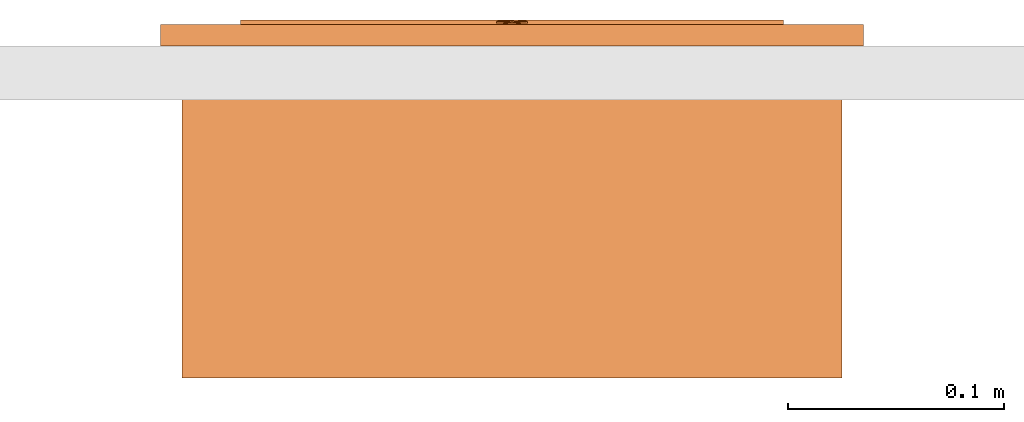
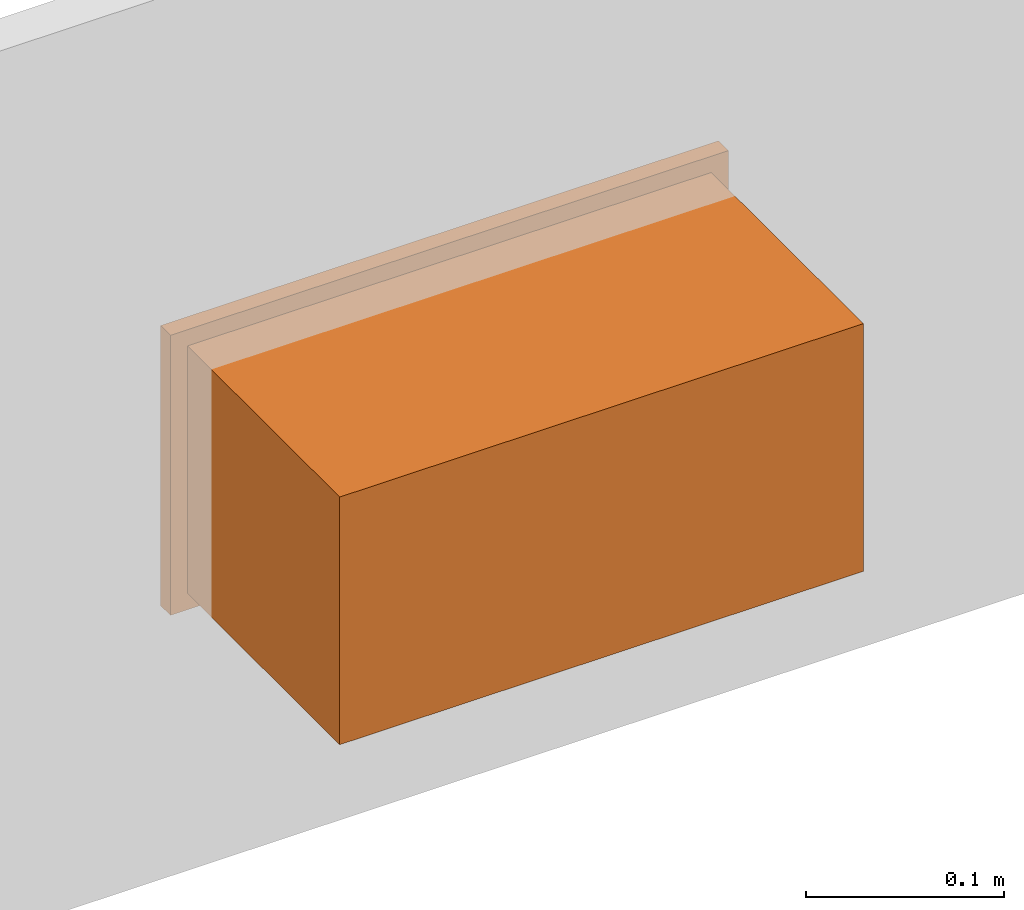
# One storey, part 2 of 2: 1 proxy.
"""IFC2X3 building model written with IfcOpenShell, lengths in millimetres."""

from ifc_helpers import new_model, entity, si_unit, converted_unit, derived_unit, direction, frame, origin, place, context, subcontext, project, spatial, face_set, surface_model, source, transform, mapped, material, material_list, element, save


model = new_model("IFC2X3")

# Units and contexts
model_context = context("Model", 3, precision=1e-05, world=origin(), true_north=direction((2.0, 6.12303176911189e-17, 1.0)))
context_of_model = context(None, 3, precision=1e-05, world=origin(), true_north=direction((2.0, 6.12303176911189e-17, 1.0)))
body_context = subcontext(model_context, "Body", "Model", "MODEL_VIEW")
ifc_project = project(units=[si_unit("LENGTHUNIT", "METRE", prefix="MILLI"), si_unit("AREAUNIT", "SQUARE_METRE"), si_unit("VOLUMEUNIT", "CUBIC_METRE"), converted_unit("PLANEANGLEUNIT", "DEGREE", entity("IfcRatioMeasure", 0.0174532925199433), si_unit("PLANEANGLEUNIT", "RADIAN"), dimensions=[0, 0, 0, 0, 0, 0, 0]), si_unit("MASSUNIT", "GRAM", prefix="KILO"), si_unit("TIMEUNIT", "SECOND"), si_unit("THERMODYNAMICTEMPERATUREUNIT", "KELVIN"), derived_unit("THERMALTRANSMITTANCEUNIT", [(si_unit("MASSUNIT", "GRAM", prefix="KILO"), 1), (si_unit("THERMODYNAMICTEMPERATUREUNIT", "KELVIN"), -1), (si_unit("TIMEUNIT", "SECOND"), -3)]), derived_unit("VOLUMETRICFLOWRATEUNIT", [(si_unit("LENGTHUNIT", "METRE"), 3), (si_unit("TIMEUNIT", "SECOND"), -1)]), si_unit("POWERUNIT", "WATT")], contexts=[model_context, context_of_model])

# Site, building, storey
site_placement = place(None, origin())
site = spatial("IfcSite", under=ifc_project, at=site_placement, Name="Default", CompositionType="ELEMENT")
building_placement = place(site_placement, origin())
building = spatial("IfcBuilding", under=site, at=building_placement, CompositionType="ELEMENT")
storey_placement = place(building_placement, origin())
storey = spatial("IfcBuildingStorey", under=building, at=storey_placement, Name="Level 1", CompositionType="ELEMENT", Elevation=0.0)

# Proxy
ifc_material = material(Name="Stainless Steel")
ifc_material_list = material_list([ifc_material])
shared_shape = source(origin(), body_context, "Body", "SurfaceModel", [
    surface_model("IfcFaceBasedSurfaceModel", [(163.0, 3.59907379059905, 126.0), (156.071796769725, 3.59907379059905, 130.0), (156.071796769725, 3.59907379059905, 138.0), (163.0, 3.59907379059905, 142.0), (163.0, 3.599073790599, 138.472447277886), (162.2, 3.599073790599, 138.472447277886), (162.2, 3.599073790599, 129.527552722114), (163.0, 3.599073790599, 129.527552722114), (169.928203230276, 3.59907379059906, 138.0), (169.928203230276, 3.59907379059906, 130.0), (163.8, 3.599073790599, 129.527552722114), (163.8, 3.599073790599, 138.472447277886), (155.835222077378, 2.42198417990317, 134.000007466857), (163.000000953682, 2.91026287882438, 141.434401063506), (163.000000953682, 2.14229104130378, 140.803843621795), (156.913980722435, 1.80898221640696, 133.057041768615), (163.000000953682, 1.85089122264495, 128.15708649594), (163.000000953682, 1.59527228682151, 128.999985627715), (163.000000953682, 2.91026287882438, 126.565577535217), (163.000000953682, 2.14229104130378, 127.196171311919), (163.000000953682, 1.85089122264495, 139.842928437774), (157.999997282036, 1.59527228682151, 134.000007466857), (163.000000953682, 1.59527228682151, 138.999992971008), (170.164779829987, 2.42198417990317, 134.000007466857), (169.086012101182, 1.80898221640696, 134.942973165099), (167.999995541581, 1.59527228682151, 134.000007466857), (163.0, 1.59527223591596, 138.472447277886), (162.2, 1.59527223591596, 138.472447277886), (162.2, 1.59527223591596, 129.527552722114), (163.0, 1.59527223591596, 129.527552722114), (163.8, 1.59527223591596, 129.527552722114), (163.8, 1.59527223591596, 138.472447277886), (281.0, 1.59907379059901, 103.0), (283.07055236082, 1.59907379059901, 102.727406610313), (285.0, 1.59907379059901, 101.928203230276), (286.656854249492, 1.59907379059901, 100.656854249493), (287.928203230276, 1.59907379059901, 99.0), (288.727406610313, 1.59907379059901, 97.0705523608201), (289.0, 1.59907379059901, 95.0), (289.0, 1.59907379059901, 55.0), (288.727406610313, 1.59907379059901, 52.9294476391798), (287.928203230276, 1.59907379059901, 51.0), (286.656854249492, 1.59907379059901, 49.3431457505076), (285.0, 1.59907379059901, 48.0717967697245), (283.07055236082, 1.59907379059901, 47.2725933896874), (281.0, 1.59907379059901, 47.0), (45.0, 1.59907379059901, 47.0), (42.92944763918, 1.59907379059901, 47.2725933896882), (41.0, 1.59907379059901, 48.0717967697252), (39.3431457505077, 1.59907379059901, 49.3431457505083), (38.0717967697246, 1.59907379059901, 51.0), (37.2725933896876, 1.59907379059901, 52.9294476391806), (37.0, 1.59907379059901, 55.0), (37.0, 1.59907379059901, 95.0), (37.2725933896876, 1.59907379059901, 97.070552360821), (38.0717967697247, 1.59907379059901, 99.0), (39.3431457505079, 1.59907379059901, 100.656854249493), (41.0, 1.59907379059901, 101.928203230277), (42.9294476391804, 1.59907379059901, 102.727406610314), (45.0, 1.59907379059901, 103.0), (281.0, 1.59907379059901, 101.0), (45.0, 1.59907379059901, 101.0), (43.4470857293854, 1.59907379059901, 100.795554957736), (42.0, 1.59907379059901, 100.196152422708), (40.757359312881, 1.59907379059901, 99.2426406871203), (39.8038475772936, 1.59907379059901, 98.0), (39.2044450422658, 1.59907379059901, 96.5529142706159), (39.0, 1.59907379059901, 95.0), (39.0, 1.59907379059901, 55.0), (39.2044450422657, 1.59907379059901, 53.4470857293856), (39.8038475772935, 1.59907379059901, 52.0), (40.7573593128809, 1.59907379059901, 50.7573593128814), (42.0, 1.59907379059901, 49.8038475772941), (43.447085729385, 1.59907379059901, 49.2044450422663), (45.0, 1.59907379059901, 49.0), (281.0, 1.59907379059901, 49.0), (282.552914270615, 1.59907379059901, 49.2044450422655), (284.0, 1.59907379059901, 49.8038475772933), (285.242640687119, 1.59907379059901, 50.7573593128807), (286.196152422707, 1.59907379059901, 52.0), (286.795554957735, 1.59907379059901, 53.4470857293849), (287.0, 1.59907379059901, 55.0), (287.0, 1.59907379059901, 95.0), (286.795554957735, 1.59907379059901, 96.5529142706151), (286.196152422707, 1.59907379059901, 98.0), (285.242640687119, 1.59907379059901, 99.2426406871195), (284.0, 1.59907379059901, 100.196152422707), (282.552914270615, 1.59907379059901, 100.795554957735), (281.0, 3.59907379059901, 103.0), (283.07055236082, 3.59907379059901, 102.727406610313), (285.0, 3.59907379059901, 101.928203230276), (286.656854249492, 3.59907379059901, 100.656854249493), (287.928203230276, 3.59907379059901, 99.0), (288.727406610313, 3.59907379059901, 97.0705523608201), (289.0, 3.59907379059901, 95.0), (289.0, 3.59907379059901, 55.0), (288.727406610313, 3.59907379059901, 52.9294476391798), (287.928203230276, 3.59907379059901, 51.0), (286.656854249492, 3.59907379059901, 49.3431457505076), (285.0, 3.59907379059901, 48.0717967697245), (283.07055236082, 3.59907379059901, 47.2725933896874), (281.0, 3.59907379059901, 47.0), (45.0, 3.59907379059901, 47.0), (42.92944763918, 3.59907379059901, 47.2725933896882), (41.0, 3.59907379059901, 48.0717967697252), (39.3431457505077, 3.59907379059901, 49.3431457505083), (38.0717967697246, 3.59907379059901, 51.0), (37.2725933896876, 3.59907379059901, 52.9294476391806), (37.0, 3.59907379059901, 55.0), (37.0, 3.59907379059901, 95.0), (37.2725933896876, 3.59907379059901, 97.070552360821), (38.0717967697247, 3.59907379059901, 99.0), (39.3431457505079, 3.59907379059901, 100.656854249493), (41.0, 3.59907379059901, 101.928203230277), (42.9294476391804, 3.59907379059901, 102.727406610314), (45.0, 3.59907379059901, 103.0), (281.0, 3.59907379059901, 101.0), (45.0, 3.59907379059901, 101.0), (43.4470857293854, 3.59907379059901, 100.795554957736), (42.0, 3.59907379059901, 100.196152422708), (40.757359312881, 3.59907379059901, 99.2426406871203), (39.8038475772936, 3.59907379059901, 98.0), (39.2044450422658, 3.59907379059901, 96.5529142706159), (39.0, 3.59907379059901, 95.0), (39.0, 3.59907379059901, 55.0), (39.2044450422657, 3.59907379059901, 53.4470857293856), (39.8038475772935, 3.59907379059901, 52.0), (40.7573593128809, 3.59907379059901, 50.7573593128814), (42.0, 3.59907379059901, 49.8038475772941), (43.447085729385, 3.59907379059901, 49.2044450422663), (45.0, 3.59907379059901, 49.0), (281.0, 3.59907379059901, 49.0), (282.552914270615, 3.59907379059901, 49.2044450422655), (284.0, 3.59907379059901, 49.8038475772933), (285.242640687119, 3.59907379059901, 50.7573593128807), (286.196152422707, 3.59907379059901, 52.0), (286.795554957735, 3.59907379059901, 53.4470857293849), (287.0, 3.59907379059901, 55.0), (287.0, 3.59907379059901, 95.0), (286.795554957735, 3.59907379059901, 96.5529142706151), (286.196152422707, 3.59907379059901, 98.0), (285.242640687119, 3.59907379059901, 99.2426406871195), (284.0, 3.59907379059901, 100.196152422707), (282.552914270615, 3.59907379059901, 100.795554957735), (316.0, 165.599073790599, 163.0), (316.0, 165.599073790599, 10.0), (10.0, 165.599073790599, 10.0), (10.0, 165.599073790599, 163.0), (316.0, 167.599073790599, 163.0), (316.0, 167.599073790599, 10.0), (10.0, 167.599073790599, 10.0), (10.0, 167.599073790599, 163.0), (316.0, 13.599073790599, 163.0), (316.0, 13.599073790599, 10.0), (10.0, 13.599073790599, 10.0), (10.0, 13.599073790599, 163.0), (314.0, 13.599073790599, 161.0), (12.0, 13.599073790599, 161.0), (12.0, 13.599073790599, 12.0), (314.0, 13.599073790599, 12.0), (316.0, 167.599073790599, 163.0), (316.0, 167.599073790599, 10.0), (10.0, 167.599073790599, 10.0), (10.0, 167.599073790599, 163.0), (314.0, 167.599073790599, 161.0), (12.0, 167.599073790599, 161.0), (12.0, 167.599073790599, 12.0), (314.0, 167.599073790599, 12.0)], [face_set([[[0, 1, 2, 3, 4, 5, 6, 7]], [[3, 8, 9, 0, 7, 10, 11, 4]], [[12, 13, 2]], [[13, 12, 14]], [[15, 16, 17]], [[2, 1, 12]], [[1, 0, 18]], [[19, 12, 18]], [[20, 15, 21]], [[21, 22, 20]], [[15, 20, 14]], [[15, 17, 21]], [[16, 15, 19]], [[12, 15, 14]], [[18, 12, 1]], [[19, 15, 12]], [[13, 3, 2]], [[0, 9, 19]], [[23, 24, 19]], [[24, 16, 19]], [[9, 8, 23]], [[19, 9, 23]], [[14, 23, 13]], [[14, 24, 23]], [[25, 17, 16]], [[8, 3, 13]], [[24, 20, 22]], [[22, 25, 24]], [[16, 24, 25]], [[13, 23, 8]], [[20, 24, 14]], [[22, 26, 27, 28, 29, 17, 21]], [[17, 29, 30, 31, 26, 22, 25]], [[10, 11, 31, 30]], [[11, 4, 5, 27, 26, 31]], [[5, 27, 28, 6]], [[30, 10, 7, 6, 28, 29]]]), face_set([[[32, 33, 34, 35, 36, 37, 38, 39, 40, 41, 42, 43, 44, 45, 46, 47, 48, 49, 50, 51, 52, 53, 54, 55, 56, 57, 58, 59], [60, 61, 62, 63, 64, 65, 66, 67, 68, 69, 70, 71, 72, 73, 74, 75, 76, 77, 78, 79, 80, 81, 82, 83, 84, 85, 86, 87]], [[88, 89, 90, 91, 92, 93, 94, 95, 96, 97, 98, 99, 100, 101, 102, 103, 104, 105, 106, 107, 108, 109, 110, 111, 112, 113, 114, 115], [116, 117, 118, 119, 120, 121, 122, 123, 124, 125, 126, 127, 128, 129, 130, 131, 132, 133, 134, 135, 136, 137, 138, 139, 140, 141, 142, 143]], [[143, 116, 60, 87]], [[142, 143, 87, 86]], [[86, 85, 141, 142]], [[139, 140, 84, 83]], [[138, 139, 83, 82]], [[85, 84, 140, 141]], [[81, 137, 138, 82]], [[136, 137, 81, 80]], [[135, 136, 80, 79]], [[79, 78, 134, 135]], [[132, 133, 77, 76]], [[131, 132, 76, 75]], [[78, 77, 133, 134]], [[74, 75, 131, 130]], [[129, 130, 74, 73]], [[128, 129, 73, 72]], [[72, 71, 127, 128]], [[125, 126, 70, 69]], [[124, 125, 69, 68]], [[71, 70, 126, 127]], [[67, 68, 124, 123]], [[122, 123, 67, 66]], [[121, 122, 66, 65]], [[65, 64, 120, 121]], [[118, 119, 63, 62]], [[117, 118, 62, 61]], [[64, 63, 119, 120]], [[60, 116, 117, 61]], [[59, 32, 88, 115]], [[114, 113, 57, 58]], [[115, 114, 58, 59]], [[56, 57, 113, 112]], [[110, 109, 53, 54]], [[111, 110, 54, 55]], [[55, 56, 112, 111]], [[52, 108, 109, 53]], [[107, 106, 50, 51]], [[108, 107, 51, 52]], [[49, 50, 106, 105]], [[103, 102, 46, 47]], [[104, 103, 47, 48]], [[48, 49, 105, 104]], [[45, 101, 102, 46]], [[100, 99, 43, 44]], [[101, 100, 44, 45]], [[42, 43, 99, 98]], [[96, 95, 39, 40]], [[97, 96, 40, 41]], [[41, 42, 98, 97]], [[38, 39, 95, 94]], [[94, 93, 37, 38]], [[93, 92, 36, 37]], [[35, 36, 92, 91]], [[90, 89, 33, 34]], [[89, 88, 32, 33]], [[34, 35, 91, 90]]]), face_set([[[144, 145, 146, 147]], [[148, 149, 150, 151]], [[147, 144, 148, 151]], [[146, 150, 151, 147]], [[145, 149, 150, 146]], [[144, 145, 149, 148]]]), face_set([[[152, 153, 154, 155], [156, 157, 158, 159]], [[160, 161, 162, 163], [164, 165, 166, 167]], [[155, 152, 160, 163]], [[154, 162, 163, 155]], [[153, 161, 162, 154]], [[152, 153, 161, 160]], [[159, 167, 164, 156]], [[158, 159, 167, 166]], [[157, 158, 166, 165]], [[156, 164, 165, 157]]])]),
    surface_model("IfcFaceBasedSurfaceModel", [(326.0, 3.59907379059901, 173.0), (326.0, 3.59907379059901, 0.0), (0.0, 3.59907379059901, 0.0), (0.0, 3.59907379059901, 173.0), (281.0, 3.59907379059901, 49.0), (282.552914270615, 3.59907379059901, 49.204445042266), (284.0, 3.59907379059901, 49.8038475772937), (285.242640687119, 3.59907379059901, 50.7573593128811), (286.196152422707, 3.59907379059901, 52.0), (286.795554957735, 3.59907379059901, 53.4470857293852), (287.0, 3.59907379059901, 55.0), (287.0, 3.59907379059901, 95.0), (286.795554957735, 3.59907379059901, 96.5529142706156), (286.196152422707, 3.59907379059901, 98.0), (285.242640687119, 3.59907379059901, 99.2426406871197), (284.0, 3.59907379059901, 100.196152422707), (282.552914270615, 3.59907379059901, 100.795554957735), (281.0, 3.59907379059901, 101.0), (45.0, 3.59907379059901, 101.0), (43.447085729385, 3.59907379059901, 100.795554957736), (42.0, 3.59907379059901, 100.196152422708), (40.7573593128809, 3.59907379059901, 99.2426406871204), (39.8038475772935, 3.59907379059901, 98.0), (39.2044450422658, 3.59907379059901, 96.5529142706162), (39.0, 3.59907379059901, 95.0), (39.0, 3.59907379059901, 55.0), (39.2044450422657, 3.59907379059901, 53.4470857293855), (39.8038475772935, 3.59907379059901, 52.0), (40.7573593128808, 3.59907379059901, 50.7573593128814), (42.0, 3.59907379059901, 49.8038475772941), (43.447085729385, 3.59907379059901, 49.2044450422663), (45.0, 3.59907379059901, 49.0), (326.0, 13.599073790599, 173.0), (326.0, 13.599073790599, 0.0), (0.0, 13.599073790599, 0.0), (0.0, 13.599073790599, 173.0), (281.0, 13.599073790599, 49.0), (282.552914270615, 13.599073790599, 49.204445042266), (284.0, 13.599073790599, 49.8038475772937), (285.242640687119, 13.599073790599, 50.7573593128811), (286.196152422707, 13.599073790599, 52.0), (286.795554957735, 13.599073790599, 53.4470857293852), (287.0, 13.599073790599, 55.0), (287.0, 13.599073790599, 95.0), (286.795554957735, 13.599073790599, 96.5529142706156), (286.196152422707, 13.599073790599, 98.0), (285.242640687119, 13.599073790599, 99.2426406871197), (284.0, 13.599073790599, 100.196152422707), (282.552914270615, 13.599073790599, 100.795554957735), (281.0, 13.599073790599, 101.0), (45.0, 13.599073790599, 101.0), (43.447085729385, 13.599073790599, 100.795554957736), (42.0, 13.599073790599, 100.196152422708), (40.7573593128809, 13.599073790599, 99.2426406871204), (39.8038475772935, 13.599073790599, 98.0), (39.2044450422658, 13.599073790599, 96.5529142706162), (39.0, 13.599073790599, 95.0), (39.0, 13.599073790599, 55.0), (39.2044450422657, 13.599073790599, 53.4470857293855), (39.8038475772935, 13.599073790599, 52.0), (40.7573593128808, 13.599073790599, 50.7573593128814), (42.0, 13.599073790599, 49.8038475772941), (43.447085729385, 13.599073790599, 49.2044450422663), (45.0, 13.599073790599, 49.0)], [face_set([[[0, 1, 2, 3], [4, 5, 6, 7, 8, 9, 10, 11, 12, 13, 14, 15, 16, 17, 18, 19, 20, 21, 22, 23, 24, 25, 26, 27, 28, 29, 30, 31]], [[32, 33, 34, 35], [36, 37, 38, 39, 40, 41, 42, 43, 44, 45, 46, 47, 48, 49, 50, 51, 52, 53, 54, 55, 56, 57, 58, 59, 60, 61, 62, 63]], [[3, 0, 32, 35]], [[2, 3, 35, 34]], [[1, 2, 34, 33]], [[0, 1, 33, 32]], [[31, 4, 36, 63]], [[62, 63, 31, 30]], [[61, 62, 30, 29]], [[29, 28, 60, 61]], [[58, 59, 27, 26]], [[57, 58, 26, 25]], [[28, 27, 59, 60]], [[24, 25, 57, 56]], [[55, 56, 24, 23]], [[54, 55, 23, 22]], [[22, 21, 53, 54]], [[51, 52, 20, 19]], [[50, 51, 19, 18]], [[21, 20, 52, 53]], [[17, 49, 50, 18]], [[48, 49, 17, 16]], [[47, 48, 16, 15]], [[15, 14, 46, 47]], [[44, 45, 13, 12]], [[43, 44, 12, 11]], [[14, 13, 45, 46]], [[10, 42, 43, 11]], [[41, 42, 10, 9]], [[40, 41, 9, 8]], [[8, 7, 39, 40]], [[37, 38, 6, 5]], [[36, 37, 5, 4]], [[7, 6, 38, 39]]])]),
])
proxy_placement = place(storey_placement, frame((1204.17987533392, 3991.3138696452, -136.514792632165), z_axis=(0.0, 0.0, 1.0), x_axis=(-1.0, 0.0, 0.0)))
element("IfcBuildingElementProxy", 1, at=proxy_placement, inside=storey, material=ifc_material_list, Name="DP3601:DP3601 Dolphin Prestige Under Counter Paper Towel Dispenser", ObjectType="DP3601 Dolphin Prestige Under Counter Paper Towel Dispenser", CompositionType="ELEMENT", context=body_context, shape_type="MappedRepresentation", body=[
    mapped(shared_shape, transform((0.0, 0.0, 0.0), scale=1.0)),
])

save(model, "model.ifc")
